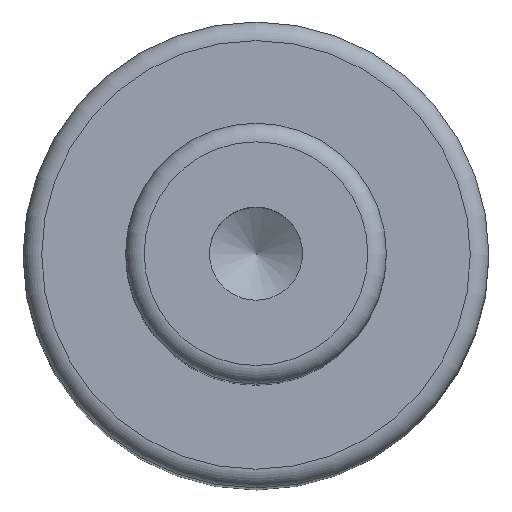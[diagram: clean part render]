
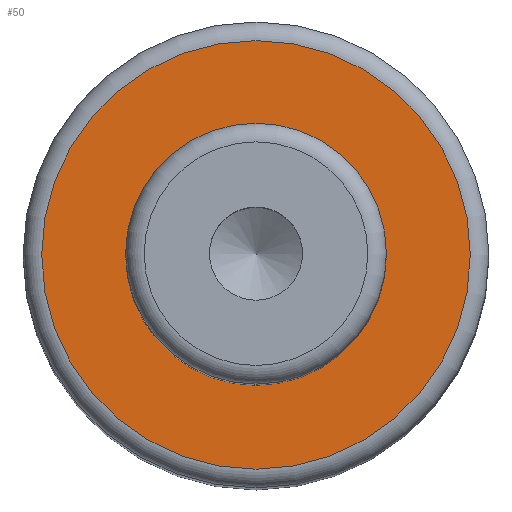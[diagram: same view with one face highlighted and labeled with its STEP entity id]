
A CAD part, top view. The second image highlights one B-rep face of the part: STEP entity #50.
In plain terms, the highlighted planar face has unit normal (0, 0, 1).
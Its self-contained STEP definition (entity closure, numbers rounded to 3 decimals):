
#40=PLANE('',#179);
#50=ADVANCED_FACE('',(#72,#73),#40,.F.);
#72=FACE_BOUND('',#96,.T.);
#73=FACE_BOUND('',#97,.T.);
#96=EDGE_LOOP('',(#118));
#97=EDGE_LOOP('',(#119));
#118=ORIENTED_EDGE('',*,*,#149,.F.);
#119=ORIENTED_EDGE('',*,*,#148,.T.);
#135=VERTEX_POINT('',#256);
#136=VERTEX_POINT('',#259);
#148=EDGE_CURVE('',#135,#135,#159,.T.);
#149=EDGE_CURVE('',#136,#136,#160,.T.);
#159=CIRCLE('',#176,7.);
#160=CIRCLE('',#178,11.5);
#176=AXIS2_PLACEMENT_3D('',#255,#213,#214);
#178=AXIS2_PLACEMENT_3D('',#258,#217,#218);
#179=AXIS2_PLACEMENT_3D('',#260,#219,#220);
#213=DIRECTION('',(0.,0.,-1.));
#214=DIRECTION('',(-1.,0.,0.));
#217=DIRECTION('',(0.,0.,-1.));
#218=DIRECTION('',(-1.,0.,0.));
#219=DIRECTION('',(0.,0.,-1.));
#220=DIRECTION('',(-1.,0.,0.));
#255=CARTESIAN_POINT('',(0.,0.,67.));
#256=CARTESIAN_POINT('',(-7.,0.,67.));
#258=CARTESIAN_POINT('',(0.,0.,67.));
#259=CARTESIAN_POINT('',(-11.5,0.,67.));
#260=CARTESIAN_POINT('',(7.,0.,67.));
